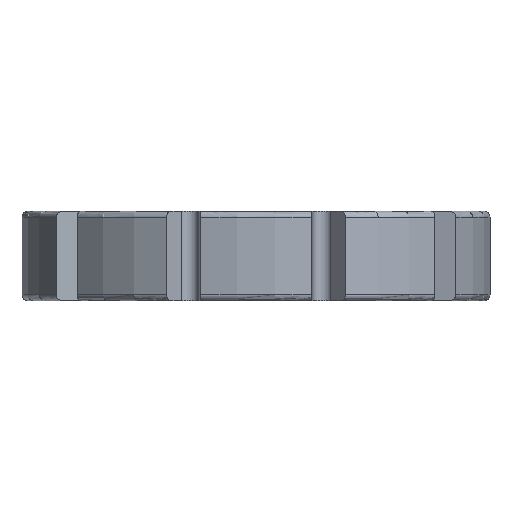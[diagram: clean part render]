
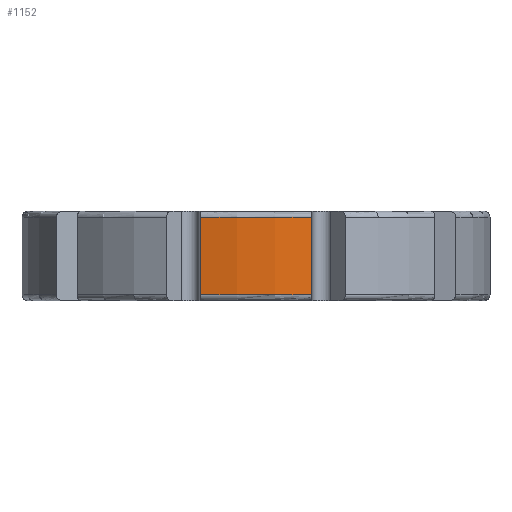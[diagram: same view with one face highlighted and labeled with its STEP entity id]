
A CAD part, left-side view. The second image highlights one B-rep face of the part: STEP entity #1152.
In plain terms, the highlighted cylindrical face has radius 78.75 mm (diameter 157.5 mm), a partial arc.
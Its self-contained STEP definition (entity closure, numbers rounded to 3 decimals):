
#117=LINE('',#1761,#197);
#118=LINE('',#1765,#198);
#197=VECTOR('',#1401,1000.);
#198=VECTOR('',#1404,1000.);
#294=ORIENTED_EDGE('',*,*,#655,.F.);
#295=ORIENTED_EDGE('',*,*,#656,.T.);
#296=ORIENTED_EDGE('',*,*,#657,.F.);
#297=ORIENTED_EDGE('',*,*,#658,.T.);
#655=EDGE_CURVE('',#834,#835,#940,.T.);
#656=EDGE_CURVE('',#834,#836,#117,.T.);
#657=EDGE_CURVE('',#837,#836,#941,.T.);
#658=EDGE_CURVE('',#837,#835,#118,.T.);
#834=VERTEX_POINT('',#1759);
#835=VERTEX_POINT('',#1760);
#836=VERTEX_POINT('',#1762);
#837=VERTEX_POINT('',#1764);
#940=CIRCLE('',#1239,78.75);
#941=CIRCLE('',#1240,78.75);
#999=EDGE_LOOP('',(#294,#295,#296,#297));
#1065=FACE_BOUND('',#999,.T.);
#1129=CYLINDRICAL_SURFACE('',#1238,78.75);
#1152=ADVANCED_FACE('',(#1065),#1129,.T.);
#1238=AXIS2_PLACEMENT_3D('',#1757,#1397,#1398);
#1239=AXIS2_PLACEMENT_3D('',#1758,#1399,#1400);
#1240=AXIS2_PLACEMENT_3D('',#1763,#1402,#1403);
#1397=DIRECTION('',(0.,0.,1.));
#1398=DIRECTION('',(-1.,0.,0.));
#1399=DIRECTION('',(0.,0.,-1.));
#1400=DIRECTION('',(-1.,0.,0.));
#1401=DIRECTION('',(0.,0.,1.));
#1402=DIRECTION('',(0.,0.,1.));
#1403=DIRECTION('',(-1.,0.,0.));
#1404=DIRECTION('',(0.,0.,-1.));
#1757=CARTESIAN_POINT('',(0.,0.,0.));
#1758=CARTESIAN_POINT('',(0.,0.,-13.));
#1759=CARTESIAN_POINT('',(-76.523,-18.594,-13.));
#1760=CARTESIAN_POINT('',(-76.523,18.594,-13.));
#1761=CARTESIAN_POINT('',(-76.523,-18.594,0.));
#1762=CARTESIAN_POINT('',(-76.523,-18.594,13.));
#1763=CARTESIAN_POINT('',(0.,0.,13.));
#1764=CARTESIAN_POINT('',(-76.523,18.594,13.));
#1765=CARTESIAN_POINT('',(-76.523,18.594,0.));
